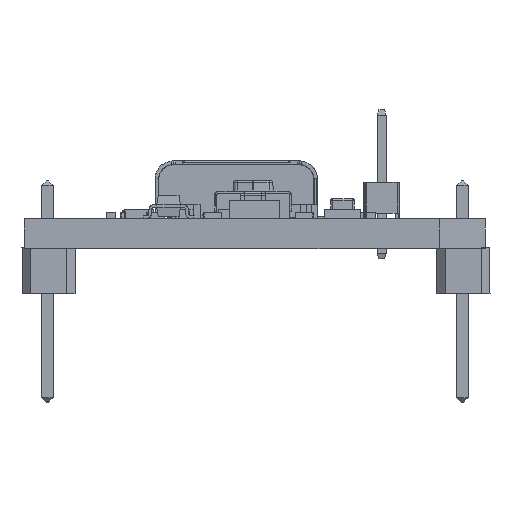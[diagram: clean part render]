
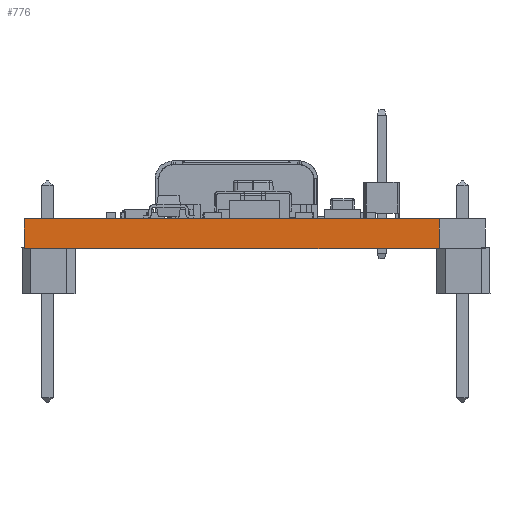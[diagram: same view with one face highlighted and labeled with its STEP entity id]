
A CAD part, front view. The second image highlights one B-rep face of the part: STEP entity #776.
In plain terms, the highlighted planar face has unit normal (0, -1, 0).
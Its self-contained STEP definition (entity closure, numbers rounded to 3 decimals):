
#751 = VERTEX_POINT('',#752);
#752 = CARTESIAN_POINT('',(21.615,-3.81,0.));
#758 = EDGE_CURVE('',#759,#751,#761,.T.);
#759 = VERTEX_POINT('',#760);
#760 = CARTESIAN_POINT('',(21.615,-3.81,-1.65));
#761 = LINE('',#762,#763);
#762 = CARTESIAN_POINT('',(21.615,-3.81,-1.65));
#763 = VECTOR('',#764,1.);
#764 = DIRECTION('',(0.,0.,1.));
#776 = ADVANCED_FACE('',(#777),#802,.T.);
#777 = FACE_BOUND('',#778,.T.);
#778 = EDGE_LOOP('',(#779,#780,#788,#796));
#779 = ORIENTED_EDGE('',*,*,#758,.T.);
#780 = ORIENTED_EDGE('',*,*,#781,.T.);
#781 = EDGE_CURVE('',#751,#782,#784,.T.);
#782 = VERTEX_POINT('',#783);
#783 = CARTESIAN_POINT('',(-1.245,-3.81,0.));
#784 = LINE('',#785,#786);
#785 = CARTESIAN_POINT('',(21.615,-3.81,0.));
#786 = VECTOR('',#787,1.);
#787 = DIRECTION('',(-1.,0.,0.));
#788 = ORIENTED_EDGE('',*,*,#789,.F.);
#789 = EDGE_CURVE('',#790,#782,#792,.T.);
#790 = VERTEX_POINT('',#791);
#791 = CARTESIAN_POINT('',(-1.245,-3.81,-1.65));
#792 = LINE('',#793,#794);
#793 = CARTESIAN_POINT('',(-1.245,-3.81,-1.65));
#794 = VECTOR('',#795,1.);
#795 = DIRECTION('',(0.,0.,1.));
#796 = ORIENTED_EDGE('',*,*,#797,.F.);
#797 = EDGE_CURVE('',#759,#790,#798,.T.);
#798 = LINE('',#799,#800);
#799 = CARTESIAN_POINT('',(21.615,-3.81,-1.65));
#800 = VECTOR('',#801,1.);
#801 = DIRECTION('',(-1.,0.,0.));
#802 = PLANE('',#803);
#803 = AXIS2_PLACEMENT_3D('',#804,#805,#806);
#804 = CARTESIAN_POINT('',(21.615,-3.81,-1.65));
#805 = DIRECTION('',(0.,-1.,0.));
#806 = DIRECTION('',(-1.,0.,0.));
